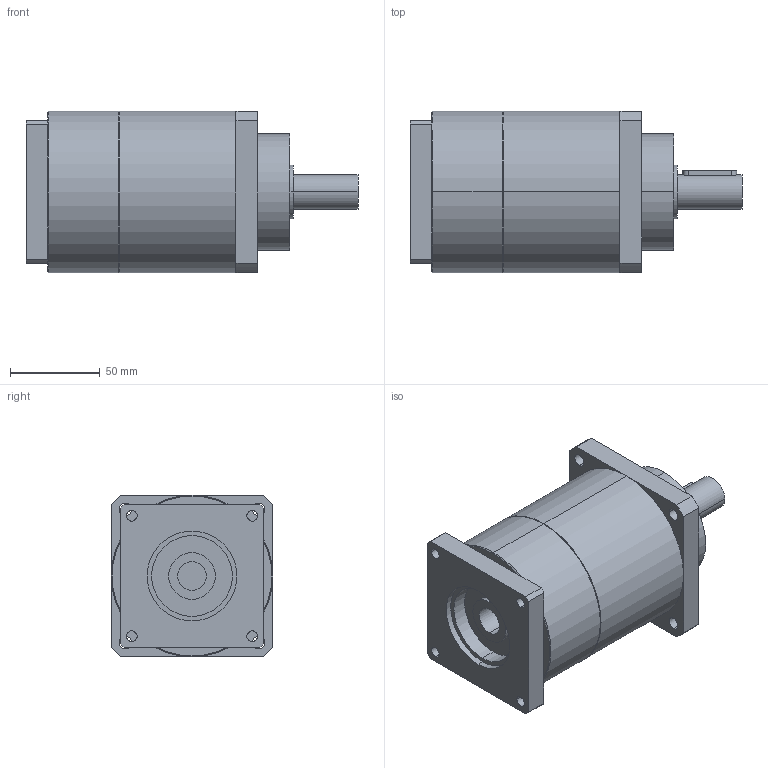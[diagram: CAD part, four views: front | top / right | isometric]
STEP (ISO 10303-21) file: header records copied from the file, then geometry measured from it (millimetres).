
FILE_DESCRIPTION(('CoCreate Modeling STEP Export'),'2;1');
FILE_NAME('GPT90_ig-9-12-16-20-25-28-35-40-50-70-100_19_B5T_16_P21.stp','2015-02-04T11:32:11',(''),(''),'CoCreate Modeling STEP processor for AP214 (Solid Model)','CoCreate Modeling 16.00C 25-Feb-2009 (C) Parametric Technology GmbH','');
FILE_SCHEMA(('AUTOMOTIVE_DESIGN { 1 0 10303 214 1 1 1 1 }'));
Length unit declared in the file: millimetre
Products named in the file (2): GPT90_ig-9-12-16-20-25-28-35-40-50-70-100_19_B5T_16_P21
Assembly tree (1 placements, depth 2):
  GPT90_ig-9-12-16-20-25-28-35-40-50-70-100_19_B5T_16_P21
    GPT90_ig-9-12-16-20-25-28-35-40-50-70-100_19_B5T_16_P21
Bounding box: 185 x 90 x 90 mm (x, y, z)
Volume: 883457.4 mm3; surface area: 66814.8 mm2
Topology: 1 solids, 1 shells, 84 faces, 229 edges, 152 vertices
Faces by surface type: cylinder 46, plane 34, cone 4
Entity records: 2719 total; most frequent: CARTESIAN_POINT 758, ORIENTED_EDGE 458, DIRECTION 330, EDGE_CURVE 229, VERTEX_POINT 152, AXIS2_PLACEMENT_3D 121, EDGE_LOOP 105, VECTOR 88
